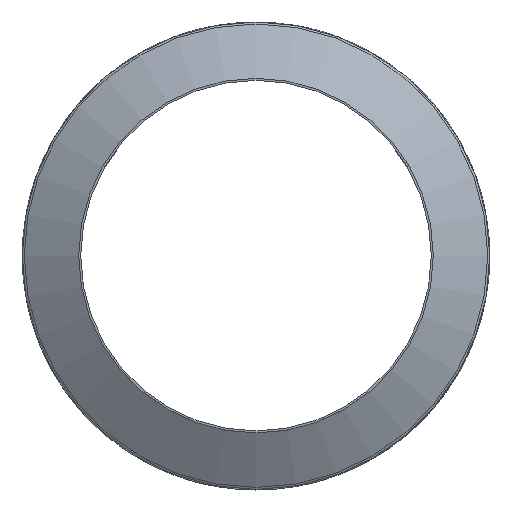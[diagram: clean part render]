
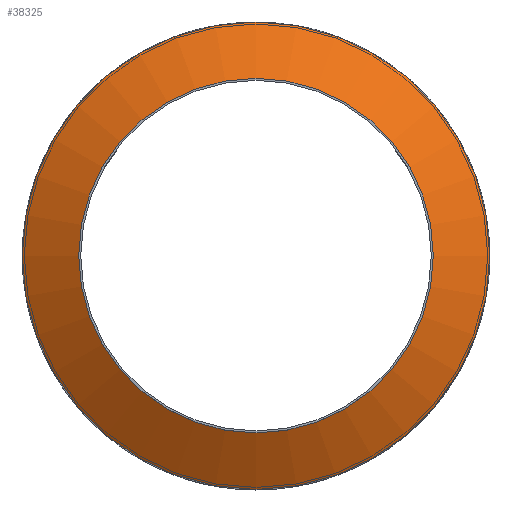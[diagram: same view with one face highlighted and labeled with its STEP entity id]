
A CAD part, top view. The second image highlights one B-rep face of the part: STEP entity #38325.
In plain terms, the highlighted conical face has half-angle 60.255 degrees and reference radius 58 mm.
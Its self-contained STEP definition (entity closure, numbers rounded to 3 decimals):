
#31 = CYLINDRICAL_SURFACE('',#32,58.);
#32 = AXIS2_PLACEMENT_3D('',#33,#34,#35);
#33 = CARTESIAN_POINT('',(0.,0.,79.8));
#34 = DIRECTION('',(0.,0.,1.));
#35 = DIRECTION('',(1.,0.,0.));
#174 = VERTEX_POINT('',#175);
#175 = CARTESIAN_POINT('',(58.,0.,158.));
#193 = EDGE_CURVE('',#174,#174,#194,.T.);
#194 = SURFACE_CURVE('',#195,(#200,#207),.PCURVE_S1.);
#195 = CIRCLE('',#196,58.);
#196 = AXIS2_PLACEMENT_3D('',#197,#198,#199);
#197 = CARTESIAN_POINT('',(0.,0.,158.));
#198 = DIRECTION('',(0.,0.,1.));
#199 = DIRECTION('',(1.,0.,0.));
#200 = PCURVE('',#31,#201);
#201 = DEFINITIONAL_REPRESENTATION('',(#202),#206);
#202 = LINE('',#203,#204);
#203 = CARTESIAN_POINT('',(0.,78.2));
#204 = VECTOR('',#205,1.);
#205 = DIRECTION('',(1.,0.));
#206 = ( GEOMETRIC_REPRESENTATION_CONTEXT(2) 
PARAMETRIC_REPRESENTATION_CONTEXT() REPRESENTATION_CONTEXT('2D SPACE',''
  ) );
#207 = PCURVE('',#208,#213);
#208 = CONICAL_SURFACE('',#209,58.,1.052);
#209 = AXIS2_PLACEMENT_3D('',#210,#211,#212);
#210 = CARTESIAN_POINT('',(0.,0.,158.));
#211 = DIRECTION('',(-0.,-0.,-1.));
#212 = DIRECTION('',(1.,0.,0.));
#213 = DEFINITIONAL_REPRESENTATION('',(#214),#218);
#214 = LINE('',#215,#216);
#215 = CARTESIAN_POINT('',(-0.,-0.));
#216 = VECTOR('',#217,1.);
#217 = DIRECTION('',(-1.,-0.));
#218 = ( GEOMETRIC_REPRESENTATION_CONTEXT(2) 
PARAMETRIC_REPRESENTATION_CONTEXT() REPRESENTATION_CONTEXT('2D SPACE',''
  ) );
#38325 = ADVANCED_FACE('',(#38326),#208,.T.);
#38326 = FACE_BOUND('',#38327,.T.);
#38327 = EDGE_LOOP('',(#38328,#38329,#38349,#38376));
#38328 = ORIENTED_EDGE('',*,*,#193,.T.);
#38329 = ORIENTED_EDGE('',*,*,#38330,.T.);
#38330 = EDGE_CURVE('',#174,#38331,#38333,.T.);
#38331 = VERTEX_POINT('',#38332);
#38332 = CARTESIAN_POINT('',(44.,0.,166.));
#38333 = SEAM_CURVE('',#38334,(#38337,#38343),.PCURVE_S1.);
#38334 = B_SPLINE_CURVE_WITH_KNOTS('',1,(#38335,#38336),.UNSPECIFIED.,
  .F.,.F.,(2,2),(0.,1.),.PIECEWISE_BEZIER_KNOTS.);
#38335 = CARTESIAN_POINT('',(58.,0.,158.));
#38336 = CARTESIAN_POINT('',(44.,0.,166.));
#38337 = PCURVE('',#208,#38338);
#38338 = DEFINITIONAL_REPRESENTATION('',(#38339),#38342);
#38339 = B_SPLINE_CURVE_WITH_KNOTS('',1,(#38340,#38341),.UNSPECIFIED.,
  .F.,.F.,(2,2),(0.,1.),.PIECEWISE_BEZIER_KNOTS.);
#38340 = CARTESIAN_POINT('',(-6.283,0.));
#38341 = CARTESIAN_POINT('',(-6.283,-8.));
#38342 = ( GEOMETRIC_REPRESENTATION_CONTEXT(2) 
PARAMETRIC_REPRESENTATION_CONTEXT() REPRESENTATION_CONTEXT('2D SPACE',''
  ) );
#38343 = PCURVE('',#208,#38344);
#38344 = DEFINITIONAL_REPRESENTATION('',(#38345),#38348);
#38345 = B_SPLINE_CURVE_WITH_KNOTS('',1,(#38346,#38347),.UNSPECIFIED.,
  .F.,.F.,(2,2),(0.,1.),.PIECEWISE_BEZIER_KNOTS.);
#38346 = CARTESIAN_POINT('',(0.,0.));
#38347 = CARTESIAN_POINT('',(0.,-8.));
#38348 = ( GEOMETRIC_REPRESENTATION_CONTEXT(2) 
PARAMETRIC_REPRESENTATION_CONTEXT() REPRESENTATION_CONTEXT('2D SPACE',''
  ) );
#38349 = ORIENTED_EDGE('',*,*,#38350,.F.);
#38350 = EDGE_CURVE('',#38331,#38331,#38351,.T.);
#38351 = SURFACE_CURVE('',#38352,(#38357,#38364),.PCURVE_S1.);
#38352 = CIRCLE('',#38353,44.);
#38353 = AXIS2_PLACEMENT_3D('',#38354,#38355,#38356);
#38354 = CARTESIAN_POINT('',(0.,0.,166.));
#38355 = DIRECTION('',(0.,0.,1.));
#38356 = DIRECTION('',(1.,0.,0.));
#38357 = PCURVE('',#208,#38358);
#38358 = DEFINITIONAL_REPRESENTATION('',(#38359),#38363);
#38359 = LINE('',#38360,#38361);
#38360 = CARTESIAN_POINT('',(-0.,-8.));
#38361 = VECTOR('',#38362,1.);
#38362 = DIRECTION('',(-1.,-0.));
#38363 = ( GEOMETRIC_REPRESENTATION_CONTEXT(2) 
PARAMETRIC_REPRESENTATION_CONTEXT() REPRESENTATION_CONTEXT('2D SPACE',''
  ) );
#38364 = PCURVE('',#38365,#38370);
#38365 = CYLINDRICAL_SURFACE('',#38366,44.);
#38366 = AXIS2_PLACEMENT_3D('',#38367,#38368,#38369);
#38367 = CARTESIAN_POINT('',(0.,0.,166.));
#38368 = DIRECTION('',(0.,0.,1.));
#38369 = DIRECTION('',(1.,0.,0.));
#38370 = DEFINITIONAL_REPRESENTATION('',(#38371),#38375);
#38371 = LINE('',#38372,#38373);
#38372 = CARTESIAN_POINT('',(0.,0.));
#38373 = VECTOR('',#38374,1.);
#38374 = DIRECTION('',(1.,0.));
#38375 = ( GEOMETRIC_REPRESENTATION_CONTEXT(2) 
PARAMETRIC_REPRESENTATION_CONTEXT() REPRESENTATION_CONTEXT('2D SPACE',''
  ) );
#38376 = ORIENTED_EDGE('',*,*,#38330,.F.);
